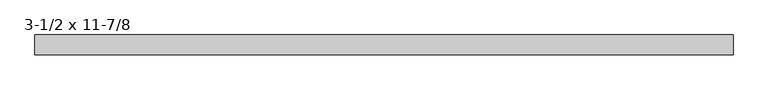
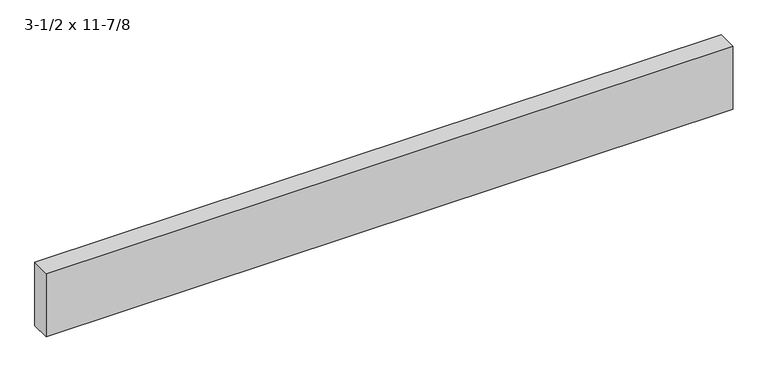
"""IFC4 building model written with IfcOpenShell, lengths in millimetres: beam geometry, Trus Joist - Parallam PSL - Beam Header : 3-1/2 x 11-7/8."""

from ifc_helpers import new_model, si_unit, frame, origin, place, context, project, spatial, polyline, outline, extrude, source, transform, mapped, element, save


def beam_3_1_2_x_11_7_8_fe4489fa(model_context):
    return source(origin(), model_context, "Body", "SweptSolid", [
        extrude(outline(polyline([(1549.4, 44.45), (1549.4, -44.45), (-1549.4, -44.45), (-1549.4, 44.45), (1549.4, 44.45)])), frame((0.0, 0.0, -150.8125), z_axis=(0.0, 0.0, 1.0), x_axis=(1.0, 0.0, 0.0)), (0.0, 0.0, 1.0), 301.625),
    ])


if __name__ == "__main__":
    model = new_model("IFC4")
    model_context = context("Model", 3, world=origin())
    ifc_project = project(units=[si_unit("LENGTHUNIT", "METRE", prefix="MILLI")], contexts=[model_context])
    site = spatial("IfcSite", under=ifc_project)
    building = spatial("IfcBuilding", under=site)
    placement = place(None, origin())
    beam_3_1_2_x_11_7_8_shape = beam_3_1_2_x_11_7_8_fe4489fa(model_context)
    element("IfcBeam", 1, ObjectType="Trus Joist - Parallam PSL - Beam Header : 3-1/2 x 11-7/8", at=placement, inside=building, context=model_context, shape_type="MappedRepresentation", body=[
        mapped(beam_3_1_2_x_11_7_8_shape, transform((0.0, 0.0, 0.0), x_axis=(1.0, 0.0, 0.0), y_axis=(0.0, 1.0, 0.0), z_axis=(0.0, 0.0, 1.0))),
    ])
    save(model, "model.ifc")
